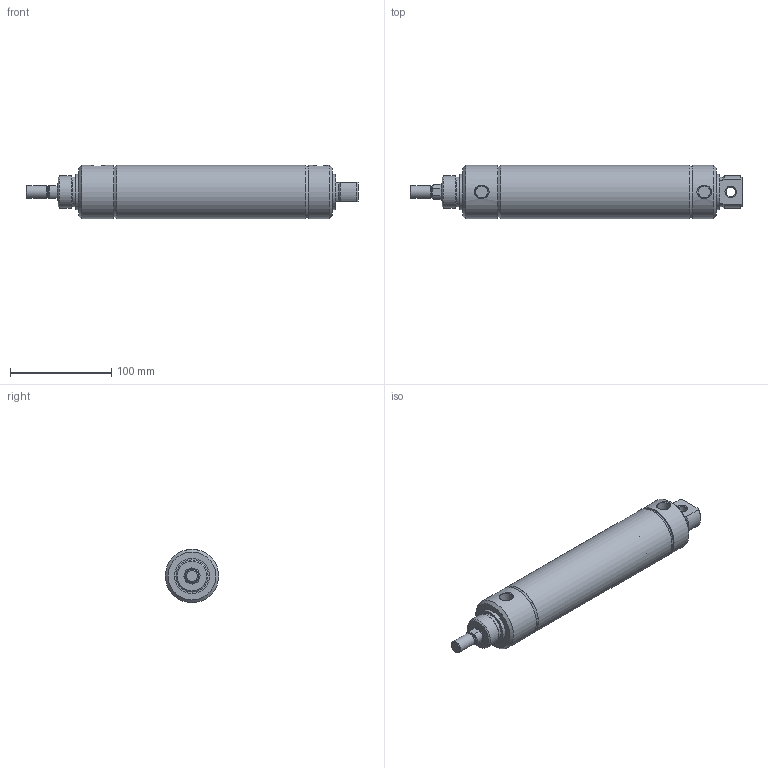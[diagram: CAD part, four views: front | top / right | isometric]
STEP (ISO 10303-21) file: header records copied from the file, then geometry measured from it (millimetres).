
FILE_DESCRIPTION( ( 'STEP AP214' ), '1' );
FILE_NAME( 'p:/temp/worker_461/temp/exporttempdir_2368_110_lFWJU/format_0/2000D02-06A.stp', '2020-05-07T19:15:26', ( 'License CC BY-ND 4.0' ), ( 'CADENAS' ), ' ', 'PARTsolutions', ' ' );
FILE_SCHEMA( ( 'AUTOMOTIVE_DESIGN { 1 0 10303 214 1 1 1 1 }' ) );
Length unit declared in the file: inch
Products named in the file (3): 2000D02-06A; _2000D02-06A-0000A00A0b; _2000D02-06A-0000A00A0r
Assembly tree (2 placements, depth 2):
  2000D02-06A
    _2000D02-06A-0000A00A0b
    _2000D02-06A-0000A00A0r
Bounding box: 328.63 x 52.78 x 52.78 mm (x, y, z)
Volume: 295462.6 mm3; surface area: 109943.1 mm2
Topology: 2 solids, 2 shells, 65 faces, 127 edges, 79 vertices
Faces by surface type: plane 23, cone 21, cylinder 21
Full cylindrical faces by diameter (mm): 9.525 x1, 11.189 x1, 12.7 x1, 15.875 x3, 29.23 x1, 31.75 x1, 34.925 x2, 50.8 x2, 52.578 x1, 52.781 x2
Entity records: 2254 total; most frequent: CARTESIAN_POINT 454, DIRECTION 276, ORIENTED_EDGE 188, AXIS2_PLACEMENT_3D 128, EDGE_LOOP 110, EDGE_CURVE 94, FACE_OUTER_BOUND 80, VERTEX_POINT 76
